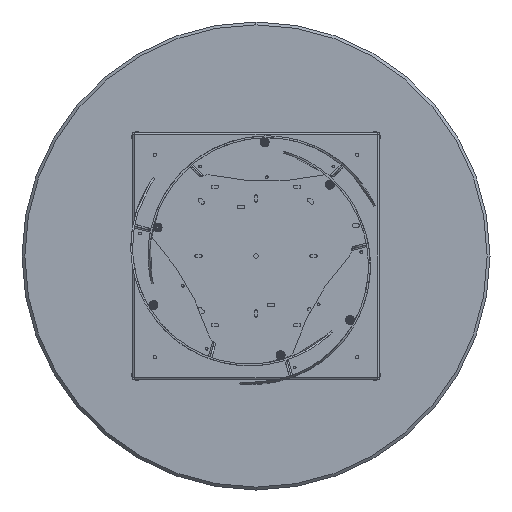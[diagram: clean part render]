
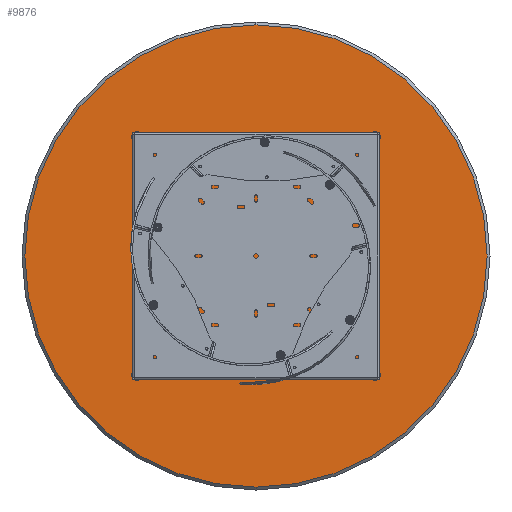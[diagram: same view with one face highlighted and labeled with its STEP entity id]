
A CAD part, front view. The second image highlights one B-rep face of the part: STEP entity #9876.
In plain terms, the highlighted planar face has unit normal (0, -1, 0).
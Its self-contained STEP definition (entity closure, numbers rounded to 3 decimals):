
#499 = DIRECTION ( 'NONE',  ( 0., 0., -1. ) ) ;
#891 = DIRECTION ( 'NONE',  ( 0., -1., 0. ) ) ;
#1665 = CARTESIAN_POINT ( 'NONE',  ( 0., 0., 0. ) ) ;
#2431 = DIRECTION ( 'NONE',  ( 0., 0., -1. ) ) ;
#3065 = AXIS2_PLACEMENT_3D ( 'NONE', #1665, #12412, #9272 ) ;
#3939 = PLANE ( 'NONE',  #9967 ) ;
#4108 = ORIENTED_EDGE ( 'NONE', *, *, #18865, .T. ) ;
#4472 = VERTEX_POINT ( 'NONE', #5538 ) ;
#5505 = CIRCLE ( 'NONE', #13081, 642. ) ;
#5538 = CARTESIAN_POINT ( 'NONE',  ( 0., 0., -642. ) ) ;
#6522 = EDGE_LOOP ( 'NONE', ( #4108, #16626 ) ) ;
#6593 = EDGE_CURVE ( 'NONE', #4472, #13076, #5505, .T. ) ;
#9272 = DIRECTION ( 'NONE',  ( 0., 0., -1. ) ) ;
#9876 = ADVANCED_FACE ( 'NONE', ( #16032 ), #3939, .T. ) ;
#9967 = AXIS2_PLACEMENT_3D ( 'NONE', #12555, #891, #499 ) ;
#11500 = CARTESIAN_POINT ( 'NONE',  ( 0., 0., 0. ) ) ;
#11972 = CIRCLE ( 'NONE', #3065, 642. ) ;
#12412 = DIRECTION ( 'NONE',  ( 0., -1., 0. ) ) ;
#12555 = CARTESIAN_POINT ( 'NONE',  ( 0., 0., 0. ) ) ;
#13076 = VERTEX_POINT ( 'NONE', #19388 ) ;
#13081 = AXIS2_PLACEMENT_3D ( 'NONE', #11500, #17568, #2431 ) ;
#16032 = FACE_OUTER_BOUND ( 'NONE', #6522, .T. ) ;
#16626 = ORIENTED_EDGE ( 'NONE', *, *, #6593, .T. ) ;
#17568 = DIRECTION ( 'NONE',  ( 0., -1., 0. ) ) ;
#18865 = EDGE_CURVE ( 'NONE', #13076, #4472, #11972, .T. ) ;
#19388 = CARTESIAN_POINT ( 'NONE',  ( 0., 0., 642. ) ) ;
